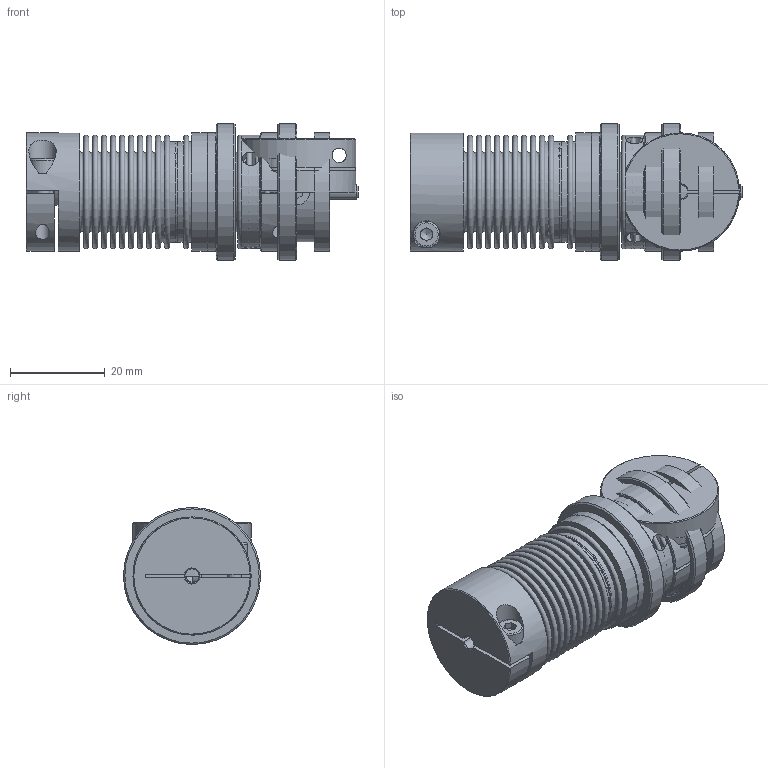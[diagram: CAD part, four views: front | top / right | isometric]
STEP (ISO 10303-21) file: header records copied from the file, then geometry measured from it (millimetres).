
FILE_DESCRIPTION( ( 'Unknown' ), '1' );
FILE_NAME( 'C:/Dokumente und Einstellungen/SKarpstein/Desktop/Korrigierte 3D Modelle/KBK-BKK-2-56.stp', 'Unknown', ( 'Unknown' ), ( 'Unknown' ), 'XStep 1.0', 'Unknown', ' ' );
FILE_SCHEMA( ( 'automotive_design' ) );
Length unit declared in the file: millimetre
Products named in the file (10): Assem1; Grundkörper L-K-2; Klemmnabe 2; Stellring 2; Druckring 2; Zylinderschraube DIN 912_0; Flansch BK2; BL20_Standard_0; KN20_Standard_5; Socket Head Cap Screw_DIN_DIN 912 M3 x 10 --- 10N_3
Bounding box: 70.25 x 29 x 29 mm (x, y, z)
Volume: 32203.2 mm3; surface area: 47525.1 mm2
Topology: 18 solids, 18 shells, 454 faces, 890 edges, 582 vertices
Faces by surface type: plane 210, torus 98, cylinder 92, cone 54
Full cylindrical faces by diameter (mm): 2.013 x6, 2.459 x2, 3 x10, 3.2 x4, 3.5 x6, 5.5 x4, 9.6 x2, 10 x4, 12 x2, 13 x6, 17 x2, 19 x2, 21 x6, 21.3 x4, 24 x2, 25 x6, 26 x2, 29 x2
Entity records: 5966 total; most frequent: CARTESIAN_POINT 1342, DIRECTION 963, ORIENTED_EDGE 630, AXIS2_PLACEMENT_3D 443, EDGE_LOOP 414, EDGE_CURVE 315, FACE_OUTER_BOUND 311, VERTEX_POINT 268
